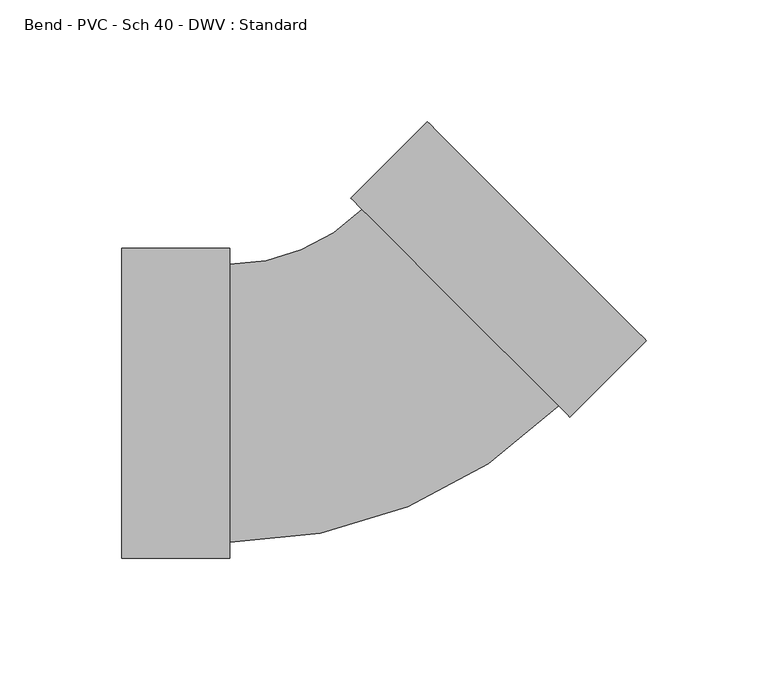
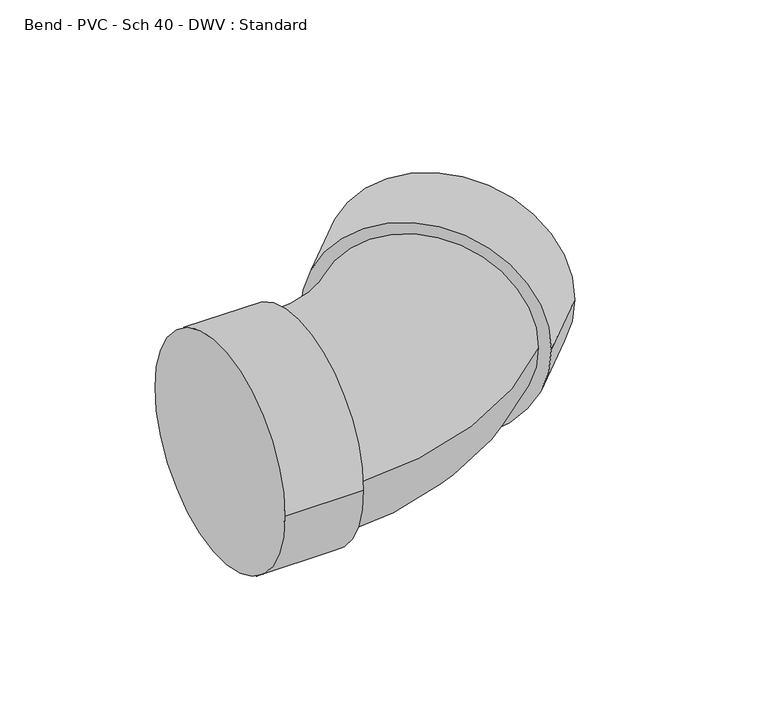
"""IFC4 building model written with IfcOpenShell, lengths in millimetres: pipe fitting geometry, Bend - PVC - Sch 40 - DWV : Standard."""

from ifc_helpers import new_model, si_unit, point, frame, origin, place, context, project, spatial, circle_curve, ellipse_curve, trimmed, source, transform, mapped, element, save
from ifc_brep_helpers import plane_surface, cylinder_surface, revolved_surface, advanced_brep


def bend_pvc_sch_40_dwv_standard_6f29ffc9(model_context):
    return source(origin(), model_context, "Body", "AdvancedBrep", [
        advanced_brep(
        [(-100.0252, -63.754, 0.0), (-100.0252, 63.754, 0.0), (-55.5752, -63.754, 0.0), (-55.5752, 63.754, 0.0), (-55.5752, -57.15, 0.0), (-55.5752, 57.15, 0.0), (-1.1114013, 79.7087833, 0.0), (79.7087233, -1.1157022, 0.0), (84.3783305, -5.7855613, 0.0), (-5.7810085, 84.3786425, 0.0), (115.8100748, 25.6444871, 0.0), (25.6507358, 115.808691, 0.0)],
        [
            (0, 1, circle_curve(frame((-100.0252, 0.0, 0.0), z_axis=(-1.0, 0.0, 0.0), x_axis=(0.0, 1.0, 0.0)), 63.754)),
            (1, 0, circle_curve(frame((-100.0252, 0.0, 0.0), z_axis=(-1.0, 0.0, 0.0), x_axis=(0.0, 1.0, 0.0)), 63.754)),
            (2, 3, circle_curve(frame((-55.5752, 0.0, 0.0), z_axis=(1.0, 0.0, 0.0), x_axis=(0.0, 1.0, 0.0)), 63.754)),
            (3, 2, circle_curve(frame((-55.5752, 0.0, 0.0), z_axis=(1.0, 0.0, 0.0), x_axis=(0.0, 1.0, 0.0)), 63.754)),
            (4, 5, circle_curve(frame((-55.5752, 0.0, 0.0), z_axis=(-1.0, 0.0, 0.0), x_axis=(0.0, 1.0, 0.0)), 57.15)),
            (5, 4, circle_curve(frame((-55.5752, 0.0, 0.0), z_axis=(-1.0, 0.0, 0.0), x_axis=(0.0, 1.0, 0.0)), 57.15)),
            (0, 2),
            (3, 1),
            (6, 5, circle_curve(frame((-55.5752, 134.1755208, 0.0), z_axis=(0.0, 0.0, -1.0), x_axis=(0.0, -1.0, 0.0)), 77.0255208)),
            (4, 7, circle_curve(frame((-55.5752, 134.1755208, 0.0), z_axis=(0.0, 0.0, 1.0), x_axis=(0.0, -1.0, 0.0)), 191.3255208)),
            (7, 6, circle_curve(frame((39.298661, 39.2965406, 0.0), z_axis=(-0.7071258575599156, -0.7070877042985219, 0.0), x_axis=(-0.7070877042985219, 0.7071258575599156, 0.0)), 57.15)),
            (6, 7, circle_curve(frame((39.298661, 39.2965406, 0.0), z_axis=(-0.7071258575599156, -0.7070877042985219, 0.0), x_axis=(-0.7070877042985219, 0.7071258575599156, 0.0)), 57.15)),
            (8, 9, circle_curve(frame((39.298661, 39.2965406, 0.0), z_axis=(-0.707125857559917, -0.7070877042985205, 0.0), x_axis=(-0.7070877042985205, 0.707125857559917, 0.0)), 63.754)),
            (9, 8, circle_curve(frame((39.298661, 39.2965406, 0.0), z_axis=(-0.707125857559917, -0.7070877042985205, 0.0), x_axis=(-0.7070877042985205, 0.707125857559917, 0.0)), 63.754)),
            (10, 11, circle_curve(frame((70.7304053, 70.726589, 0.0), z_axis=(0.707125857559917, 0.7070877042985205, 0.0), x_axis=(-0.7070877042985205, 0.707125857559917, 0.0)), 63.754)),
            (11, 10, circle_curve(frame((70.7304053, 70.726589, 0.0), z_axis=(0.707125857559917, 0.7070877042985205, 0.0), x_axis=(-0.7070877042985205, 0.707125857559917, 0.0)), 63.754)),
            (8, 10),
            (11, 9),
        ],
        [
            plane_surface(frame((-100.0252, 0.0, 0.0), z_axis=(-1.0, 0.0, 0.0), x_axis=(0.0, 0.0, 1.0))),
            plane_surface(frame((-55.5752, 0.0, 0.0), z_axis=(1.0, 0.0, 0.0), x_axis=(0.0, 0.0, 1.0))),
            cylinder_surface(frame((-100.0252, 0.0, 0.0), z_axis=(-1.0, 0.0, 0.0), x_axis=(0.0, 1.0, 0.0)), 63.754),
            revolved_surface(trimmed(ellipse_curve(frame((-55.5752, 0.0, 0.0), z_axis=(-1.0, 0.0, 0.0), x_axis=(0.0, 1.0, 0.0)), 57.15, 57.15), [point((-55.5752, -57.15, 0.0))], [point((-55.5752, 57.15, 0.0))], True, "CARTESIAN"), (-55.5752, 134.1755208, 0.0), (0.0, 0.0, 1.0)),
            revolved_surface(trimmed(ellipse_curve(frame((-55.5752, 0.0, 0.0), z_axis=(-1.0, 0.0, 0.0), x_axis=(0.0, 1.0, 0.0)), 57.15, 57.15), [point((-55.5752, 57.15, 0.0))], [point((-55.5752, -57.15, 0.0))], True, "CARTESIAN"), (-55.5752, 134.1755208, 0.0), (0.0, 0.0, 1.0)),
            plane_surface(frame((39.298661, 39.2965406, 0.0), z_axis=(-0.707125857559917, -0.7070877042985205, 0.0), x_axis=(0.0, 0.0, 1.0))),
            plane_surface(frame((70.7304053, 70.726589, 0.0), z_axis=(0.707125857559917, 0.7070877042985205, 0.0), x_axis=(0.0, 0.0, 1.0))),
            cylinder_surface(frame((39.298661, 39.2965406, 0.0), z_axis=(-0.707125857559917, -0.7070877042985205, 0.0), x_axis=(-0.7070877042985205, 0.707125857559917, 0.0)), 63.754),
        ],
        [
            (0, [[1, 2]]),
            (1, [[3, 4], [5, 6]]),
            (2, [[-1, 7, -4, 8]]),
            (2, [[-2, -8, -3, -7]]),
            (3, [[9, -5, 10, 11]]),
            (4, [[-9, 12, -10, -6]]),
            (5, [[13, 14], [-11, -12]]),
            (6, [[15, 16]]),
            (7, [[-13, 17, -16, 18]]),
            (7, [[-14, -18, -15, -17]]),
        ],
    ),
    ])


if __name__ == "__main__":
    model = new_model("IFC4")
    model_context = context("Model", 3, world=origin())
    ifc_project = project(units=[si_unit("LENGTHUNIT", "METRE", prefix="MILLI")], contexts=[model_context])
    site = spatial("IfcSite", under=ifc_project)
    building = spatial("IfcBuilding", under=site)
    placement = place(None, origin())
    bend_pvc_sch_40_dwv_standard_shape = bend_pvc_sch_40_dwv_standard_6f29ffc9(model_context)
    element("IfcPipeFitting", 1, ObjectType="Bend - PVC - Sch 40 - DWV : Standard", at=placement, inside=building, context=model_context, shape_type="MappedRepresentation", body=[
        mapped(bend_pvc_sch_40_dwv_standard_shape, transform((0.0, 0.0, 0.0), x_axis=(1.0, 0.0, 0.0), y_axis=(0.0, 1.0, 0.0), z_axis=(0.0, 0.0, 1.0))),
    ])
    save(model, "model.ifc")
